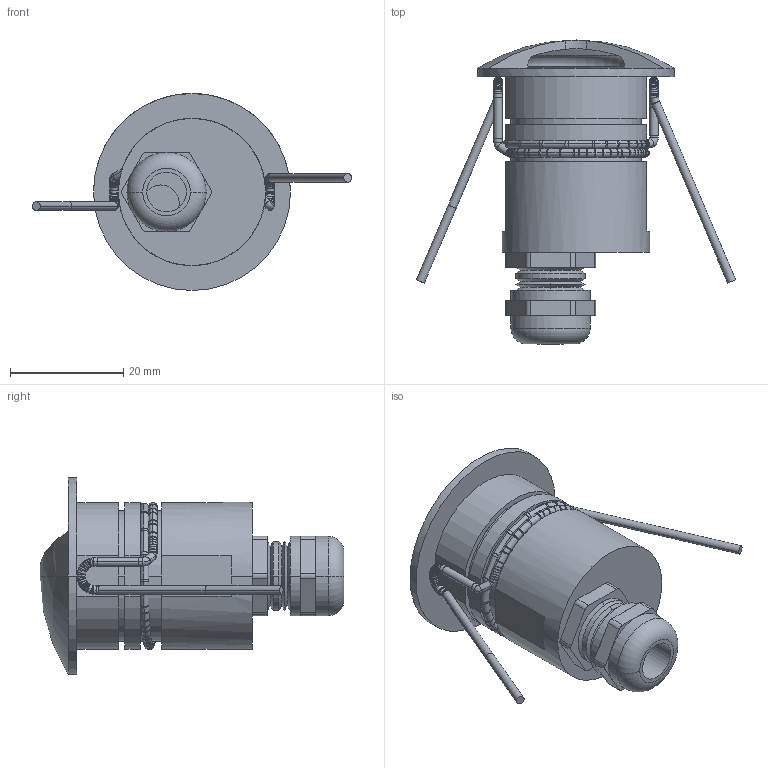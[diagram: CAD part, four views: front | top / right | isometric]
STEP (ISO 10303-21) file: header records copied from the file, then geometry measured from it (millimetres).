
FILE_DESCRIPTION((''),'2;1');
FILE_NAME('CNC35-TOP-L_SW0001','2025-07-30T16:45:57',('Piccioli'),(''),'CREO PARAMETRIC BY PTC INC, 2025010','CREO PARAMETRIC BY PTC INC, 2025010','');
FILE_SCHEMA(('CONFIG_CONTROL_DESIGN'));
Length unit declared in the file: millimetre
Products named in the file (1): CNC35-TOP-L_SW0001
Bounding box: 56.38 x 53.7 x 34.8 mm (x, y, z)
Surface area: 9995.8 mm2 (no closed solid volume)
Topology: 0 solids, 15 shells, 542 faces, 1317 edges, 739 vertices
Faces by surface type: cylinder 272, torus 162, plane 57, bspline 25, cone 14, sphere 12
Entity records: 16298 total; most frequent: CARTESIAN_POINT 3389, DIRECTION 3204, ORIENTED_EDGE 2353, AXIS2_PLACEMENT_3D 1412, EDGE_CURVE 1295, CIRCLE 895, VERTEX_POINT 739, EDGE_LOOP 560
